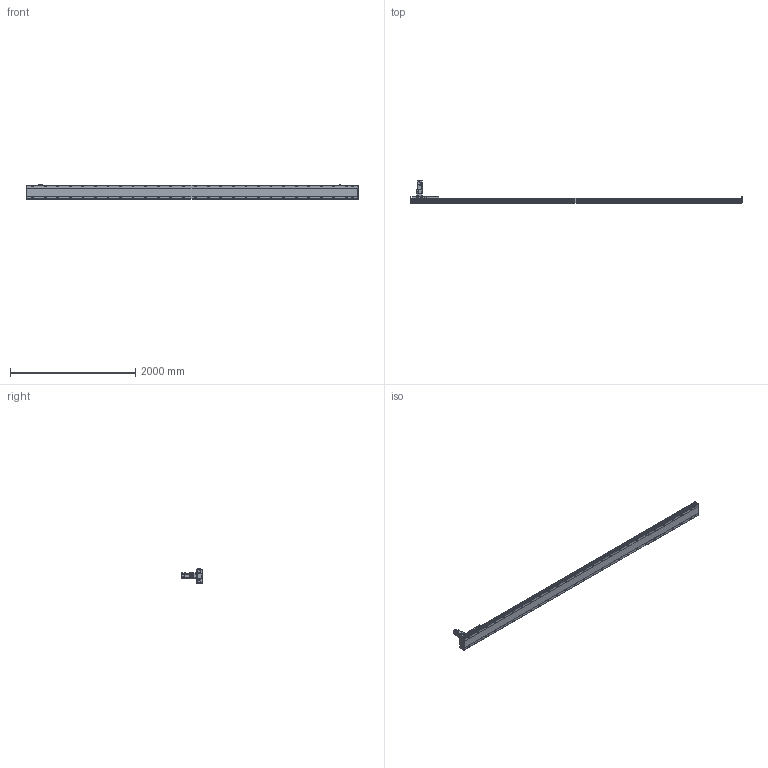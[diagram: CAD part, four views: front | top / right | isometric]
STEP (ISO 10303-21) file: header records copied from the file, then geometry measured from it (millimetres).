
FILE_DESCRIPTION(/* description */ ('STEP AP214'),/* implementation_level */ '2;1');
FILE_NAME(/* name */ 'SHS22A-L13-S4800-BC-T75-C1-N(0)',/* time_stamp */ '2022-06-15T02:29:04+02:00',/* author */ ('License CC BY-ND 4.0'),/* organization */ ('CADENAS'),/* preprocessor_version */ 'ST-DEVELOPER v18.102',/* originating_system */ 'PARTsolutions',/* authorisation */ ' ');
FILE_SCHEMA (('AUTOMOTIVE_DESIGN {1 0 10303 214 3 1 1}'));
Length unit declared in the file: millimetre
Products named in the file (7): SHS22A-L13-S4800-BC-T75-C1-N(0); PSC140-sensor; SHS22A-S4800_body2; T75-p1; SHS22A-S4800_body3; SHS22A-S4800_slider; SHS22A-L13-S4800-BC-T75-C1(0)_body
Assembly tree (13 placements, depth 2):
  SHS22A-L13-S4800-BC-T75-C1-N(0)
    PSC140-sensor  x3
    SHS22A-S4800_body2  x6
    T75-p1
    SHS22A-S4800_body3
    SHS22A-S4800_slider
    SHS22A-L13-S4800-BC-T75-C1(0)_body
Bounding box: 5294 x 350.8 x 238.4 mm (x, y, z)
Volume: 55903338.9 mm3; surface area: 5683675.6 mm2
Topology: 13 solids, 13 shells, 2025 faces, 5171 edges, 3382 vertices
Faces by surface type: plane 1388, cylinder 509, cone 119, torus 9
Full cylindrical faces by diameter (mm): 2.8 x3, 4.2 x2, 4.6 x3, 4.917 x4, 5 x4, 5.6 x24, 6 x31, 6.6 x24, 6.647 x8, 6.8 x9, 7.75 x6, 8 x3, 8.376 x54, 8.5 x54, 10 x4, 11 x4, 12 x24, 14 x54, 22 x1, 24.1 x1, 28 x1, 28.2 x1, 28.8 x1, 48.542 x1, 68 x1, 70 x1, 78 x1, 80 x2
Entity records: 35026 total; most frequent: CARTESIAN_POINT 6395, DIRECTION 5945, ORIENTED_EDGE 5232, EDGE_CURVE 2616, AXIS2_PLACEMENT_3D 2174, FACE_BOUND 1942, EDGE_LOOP 1941, VERTEX_POINT 1918
